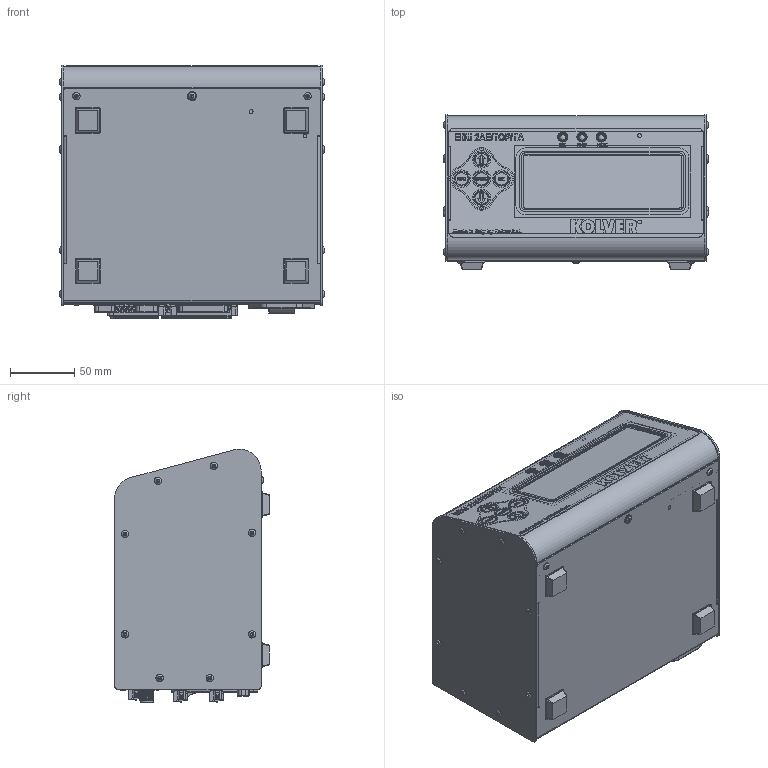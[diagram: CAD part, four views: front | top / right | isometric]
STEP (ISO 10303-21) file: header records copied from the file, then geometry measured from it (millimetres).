
FILE_DESCRIPTION (( 'STEP AP214' ), '1' );
FILE_NAME ('2AE_TOP_TA_NUOVA.STEP', '2023-05-19T12:14:03', ( '' ), ( '' ), 'SwSTEP 2.0', 'SolidWorks 2022', '' );
FILE_SCHEMA (( 'AUTOMOTIVE_DESIGN' ));
Length unit declared in the file: millimetre
Products named in the file (1): 2AE_TOP_TA_NUOVA
Bounding box: 206.3 x 120.36 x 197.24 mm (x, y, z)
Surface area: 299084.8 mm2 (no closed solid volume)
Topology: 0 solids, 323 shells, 2498 faces, 12776 edges, 10209 vertices
Faces by surface type: plane 1325, cylinder 774, bspline 192, cone 125, sphere 44, torus 38
Full cylindrical faces by diameter (mm): 0.8 x3, 1 x49, 1.6 x2, 2.8 x2, 2.845 x4, 2.9 x44, 3.1 x6, 3.2 x1, 3.25 x1, 3.5 x6, 3.9 x8, 5 x3, 5.5 x2, 5.7 x26, 5.85 x3, 6 x4, 7 x4, 8 x3, 8.3 x1, 9.5 x1, 11 x5, 12 x5, 14 x5
Entity records: 173360 total; most frequent: CARTESIAN_POINT 53314, DIRECTION 17143, ORIENTED_EDGE 16571, EDGE_CURVE 12355, VERTEX_POINT 10101, VECTOR 7417, LINE 7417, AXIS2_PLACEMENT_3D 4863
